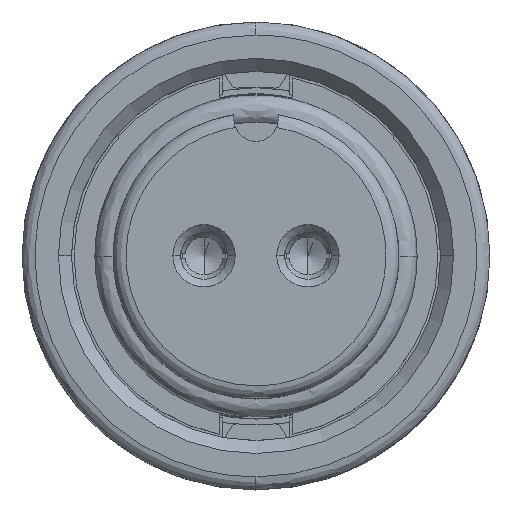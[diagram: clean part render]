
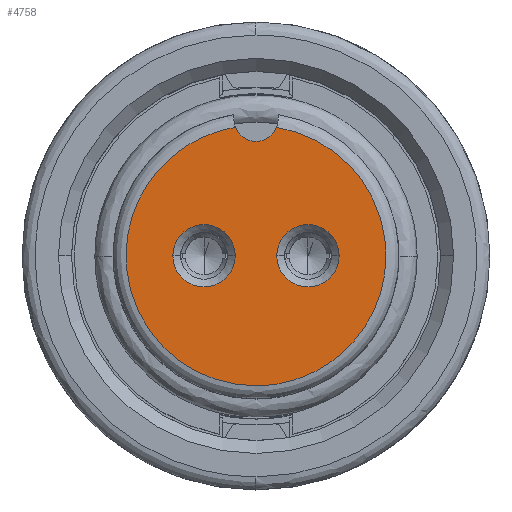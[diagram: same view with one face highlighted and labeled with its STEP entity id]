
A CAD part, top view. The second image highlights one B-rep face of the part: STEP entity #4758.
In plain terms, the highlighted planar face has unit normal (0, 0, 1).
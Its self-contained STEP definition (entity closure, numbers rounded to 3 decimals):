
#327 = ORIENTED_EDGE ( 'NONE', *, *, #2127, .T. ) ;
#410 = EDGE_CURVE ( 'NONE', #5424, #579, #7512, .T. ) ;
#579 = VERTEX_POINT ( 'NONE', #23235 ) ;
#699 = CIRCLE ( 'NONE', #10058, 0.85 ) ;
#1082 = CARTESIAN_POINT ( 'NONE',  ( 0.001, -0.031, 0. ) ) ;
#1607 = CARTESIAN_POINT ( 'NONE',  ( -3.2, 0., 0. ) ) ;
#2127 = EDGE_CURVE ( 'NONE', #17259, #15748, #11000, .T. ) ;
#4561 = CARTESIAN_POINT ( 'NONE',  ( -2., 0., 0. ) ) ;
#4758 = ADVANCED_FACE ( 'NONE', ( #6756, #27634, #6244 ), #8838, .T. ) ;
#4835 = DIRECTION ( 'NONE',  ( 1., 0., 0. ) ) ;
#4904 = DIRECTION ( 'NONE',  ( 0., 0., -1. ) ) ;
#5424 = VERTEX_POINT ( 'NONE', #19141 ) ;
#6244 = FACE_OUTER_BOUND ( 'NONE', #9515, .T. ) ;
#6756 = FACE_BOUND ( 'NONE', #24886, .T. ) ;
#7512 =( BOUNDED_CURVE ( )  B_SPLINE_CURVE ( 3, ( #25488, #30696, #17396, #19485 ),
 .UNSPECIFIED., .F., .F. ) 
 B_SPLINE_CURVE_WITH_KNOTS ( ( 4, 4 ),
 ( 0., 1. ),
 .UNSPECIFIED. ) 
 CURVE ( )  GEOMETRIC_REPRESENTATION_ITEM ( )  RATIONAL_B_SPLINE_CURVE ( ( 1., 0.382, 0.382, 1. ) ) 
 REPRESENTATION_ITEM ( '' )  );
#8838 = PLANE ( 'NONE',  #27025 ) ;
#9357 = DIRECTION ( 'NONE',  ( 1., 0., 0. ) ) ;
#9515 = EDGE_LOOP ( 'NONE', ( #29797, #10852, #23228 ) ) ;
#9590 = ORIENTED_EDGE ( 'NONE', *, *, #33478, .T. ) ;
#9623 = DIRECTION ( 'NONE',  ( 0., 0., -1. ) ) ;
#10012 = CARTESIAN_POINT ( 'NONE',  ( 2., 0., 0. ) ) ;
#10058 = AXIS2_PLACEMENT_3D ( 'NONE', #19471, #9623, #25473 ) ;
#10186 = DIRECTION ( 'NONE',  ( 0., 0., -1. ) ) ;
#10384 = ORIENTED_EDGE ( 'NONE', *, *, #12011, .T. ) ;
#10852 = ORIENTED_EDGE ( 'NONE', *, *, #23973, .T. ) ;
#11000 = CIRCLE ( 'NONE', #21455, 1.2 ) ;
#11154 = VERTEX_POINT ( 'NONE', #28113 ) ;
#12011 = EDGE_CURVE ( 'NONE', #11154, #17203, #12586, .T. ) ;
#12502 = CARTESIAN_POINT ( 'NONE',  ( -9.194, 3.592, 0. ) ) ;
#12586 = CIRCLE ( 'NONE', #34093, 1.2 ) ;
#14855 = DIRECTION ( 'NONE',  ( 0., 0., -1. ) ) ;
#15007 = CARTESIAN_POINT ( 'NONE',  ( -0.79, 4.937, 0. ) ) ;
#15095 = AXIS2_PLACEMENT_3D ( 'NONE', #10012, #15342, #4835 ) ;
#15322 = VERTEX_POINT ( 'NONE', #15007 ) ;
#15342 = DIRECTION ( 'NONE',  ( 0., 0., -1. ) ) ;
#15413 = DIRECTION ( 'NONE',  ( 1., 0., 0. ) ) ;
#15748 = VERTEX_POINT ( 'NONE', #18929 ) ;
#16253 = EDGE_LOOP ( 'NONE', ( #327, #18064 ) ) ;
#17203 = VERTEX_POINT ( 'NONE', #1607 ) ;
#17259 = VERTEX_POINT ( 'NONE', #34039 ) ;
#17396 = CARTESIAN_POINT ( 'NONE',  ( 8.638, -5.106, 0. ) ) ;
#17807 = EDGE_CURVE ( 'NONE', #15748, #17259, #23375, .T. ) ;
#18064 = ORIENTED_EDGE ( 'NONE', *, *, #17807, .T. ) ;
#18929 = CARTESIAN_POINT ( 'NONE',  ( 3.2, 0., 0. ) ) ;
#19141 = CARTESIAN_POINT ( 'NONE',  ( 0.79, 4.937, 0. ) ) ;
#19471 = CARTESIAN_POINT ( 'NONE',  ( 0., 5.25, 0. ) ) ;
#19485 = CARTESIAN_POINT ( 'NONE',  ( -0.061, -5., 0. ) ) ;
#19515 = CARTESIAN_POINT ( 'NONE',  ( 2., 0., 0. ) ) ;
#20442 = CARTESIAN_POINT ( 'NONE',  ( -0.061, -5., 0. ) ) ;
#21455 = AXIS2_PLACEMENT_3D ( 'NONE', #19515, #10186, #28478 ) ;
#22791 = CARTESIAN_POINT ( 'NONE',  ( -2., 0., 0. ) ) ;
#23228 = ORIENTED_EDGE ( 'NONE', *, *, #25138, .F. ) ;
#23235 = CARTESIAN_POINT ( 'NONE',  ( -0.061, -5., 0. ) ) ;
#23375 = CIRCLE ( 'NONE', #15095, 1.2 ) ;
#23973 = EDGE_CURVE ( 'NONE', #5424, #15322, #699, .T. ) ;
#24484 = AXIS2_PLACEMENT_3D ( 'NONE', #22791, #14855, #33680 ) ;
#24745 =( BOUNDED_CURVE ( )  B_SPLINE_CURVE ( 3, ( #20442, #28222, #12502, #33745 ),
 .UNSPECIFIED., .F., .F. ) 
 B_SPLINE_CURVE_WITH_KNOTS ( ( 4, 4 ),
 ( 0., 1. ),
 .UNSPECIFIED. ) 
 CURVE ( )  GEOMETRIC_REPRESENTATION_ITEM ( )  RATIONAL_B_SPLINE_CURVE ( ( 1., 0.39, 0.39, 1. ) ) 
 REPRESENTATION_ITEM ( '' )  );
#24886 = EDGE_LOOP ( 'NONE', ( #9590, #10384 ) ) ;
#25138 = EDGE_CURVE ( 'NONE', #579, #15322, #24745, .T. ) ;
#25473 = DIRECTION ( 'NONE',  ( 1., 0., 0. ) ) ;
#25488 = CARTESIAN_POINT ( 'NONE',  ( 0.79, 4.937, 0. ) ) ;
#27025 = AXIS2_PLACEMENT_3D ( 'NONE', #1082, #27115, #9357 ) ;
#27115 = DIRECTION ( 'NONE',  ( 0., 0., 1. ) ) ;
#27634 = FACE_BOUND ( 'NONE', #16253, .T. ) ;
#28113 = CARTESIAN_POINT ( 'NONE',  ( -0.8, 0., 0. ) ) ;
#28222 = CARTESIAN_POINT ( 'NONE',  ( -8.571, -4.896, 0. ) ) ;
#28478 = DIRECTION ( 'NONE',  ( 1., 0., 0. ) ) ;
#29467 = CIRCLE ( 'NONE', #24484, 1.2 ) ;
#29797 = ORIENTED_EDGE ( 'NONE', *, *, #410, .F. ) ;
#30696 = CARTESIAN_POINT ( 'NONE',  ( 9.38, 3.562, 0. ) ) ;
#33478 = EDGE_CURVE ( 'NONE', #17203, #11154, #29467, .T. ) ;
#33680 = DIRECTION ( 'NONE',  ( 1., 0., 0. ) ) ;
#33745 = CARTESIAN_POINT ( 'NONE',  ( -0.79, 4.937, 0. ) ) ;
#34039 = CARTESIAN_POINT ( 'NONE',  ( 0.8, 0., 0. ) ) ;
#34093 = AXIS2_PLACEMENT_3D ( 'NONE', #4561, #4904, #15413 ) ;
